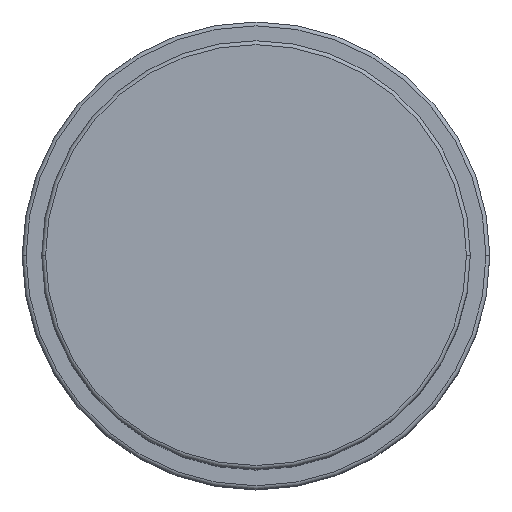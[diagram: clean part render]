
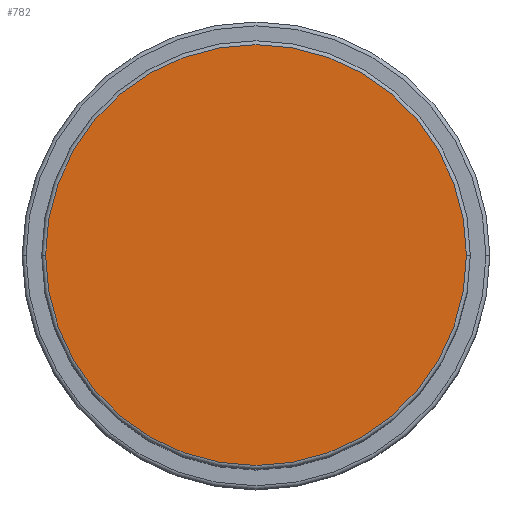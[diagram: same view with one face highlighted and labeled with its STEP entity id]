
A CAD part, top view. The second image highlights one B-rep face of the part: STEP entity #782.
In plain terms, the highlighted planar face has unit normal (0, 0, 1).
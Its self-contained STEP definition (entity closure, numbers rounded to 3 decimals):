
#53 = EDGE_CURVE ( 'NONE', #1429, #358, #1046, .T. ) ;
#67 = CARTESIAN_POINT ( 'NONE',  ( 0., 0., 81. ) ) ;
#122 = CARTESIAN_POINT ( 'NONE',  ( 27., 0., 81. ) ) ;
#134 = AXIS2_PLACEMENT_3D ( 'NONE', #571, #197, #1473 ) ;
#162 = CARTESIAN_POINT ( 'NONE',  ( -27., 0., 81. ) ) ;
#197 = DIRECTION ( 'NONE',  ( 0., 0., 1. ) ) ;
#282 = ORIENTED_EDGE ( 'NONE', *, *, #1211, .T. ) ;
#358 = VERTEX_POINT ( 'NONE', #162 ) ;
#571 = CARTESIAN_POINT ( 'NONE',  ( 0., 0., 81. ) ) ;
#624 = ORIENTED_EDGE ( 'NONE', *, *, #53, .T. ) ;
#675 = AXIS2_PLACEMENT_3D ( 'NONE', #1567, #1573, #1180 ) ;
#683 = EDGE_LOOP ( 'NONE', ( #624, #282 ) ) ;
#782 = ADVANCED_FACE ( 'NONE', ( #1617 ), #944, .T. ) ;
#820 = CIRCLE ( 'NONE', #134, 27. ) ;
#830 = DIRECTION ( 'NONE',  ( 0., 0., 1. ) ) ;
#914 = AXIS2_PLACEMENT_3D ( 'NONE', #67, #830, #1165 ) ;
#944 = PLANE ( 'NONE',  #675 ) ;
#1046 = CIRCLE ( 'NONE', #914, 27. ) ;
#1165 = DIRECTION ( 'NONE',  ( 1., 0., 0. ) ) ;
#1180 = DIRECTION ( 'NONE',  ( 1., 0., 0. ) ) ;
#1211 = EDGE_CURVE ( 'NONE', #358, #1429, #820, .T. ) ;
#1429 = VERTEX_POINT ( 'NONE', #122 ) ;
#1473 = DIRECTION ( 'NONE',  ( 1., 0., 0. ) ) ;
#1567 = CARTESIAN_POINT ( 'NONE',  ( 0., 0., 81. ) ) ;
#1573 = DIRECTION ( 'NONE',  ( 0., 0., 1. ) ) ;
#1617 = FACE_OUTER_BOUND ( 'NONE', #683, .T. ) ;
